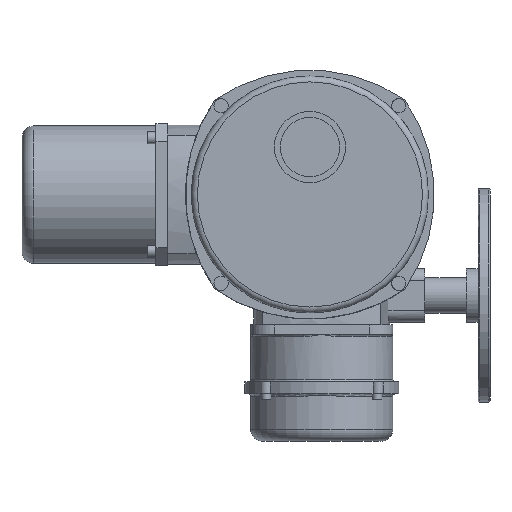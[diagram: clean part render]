
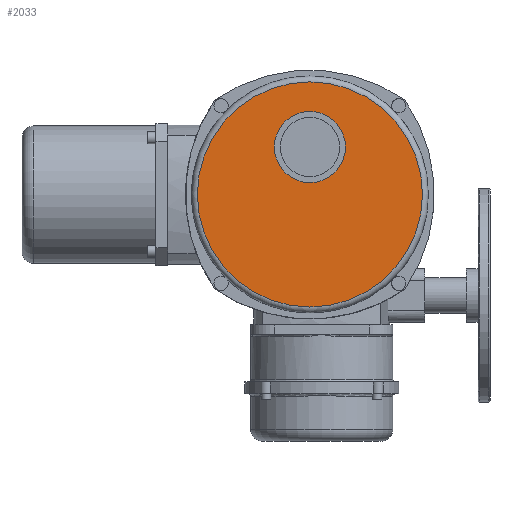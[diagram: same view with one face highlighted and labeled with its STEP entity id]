
A CAD part, top view. The second image highlights one B-rep face of the part: STEP entity #2033.
In plain terms, the highlighted planar face has unit normal (0, 0, 1).
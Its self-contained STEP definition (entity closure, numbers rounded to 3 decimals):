
#2033=ADVANCED_FACE('',(#4670,#4672),#4674,.T.);
#4670=FACE_BOUND('',#4671,.T.);
#4671=EDGE_LOOP('',(#5920));
#4672=FACE_BOUND('',#4673,.T.);
#4673=EDGE_LOOP('',(#5921));
#4674=PLANE('',#4675);
#4675=AXIS2_PLACEMENT_3D('',#4676,#4677,#4678);
#4676=CARTESIAN_POINT('',(0.,0.,70.));
#4677=DIRECTION('',(0.,0.,1.));
#4678=DIRECTION('',(1.,0.,0.));
#5920=ORIENTED_EDGE('',*,*,#6503,.T.);
#5921=ORIENTED_EDGE('',*,*,#6566,.F.);
#6503=EDGE_CURVE('',#7342,#7342,#7343,.T.);
#6566=EDGE_CURVE('',#7444,#7444,#7445,.T.);
#7342=VERTEX_POINT('',#10665);
#7343=CIRCLE('',#10666,95.);
#7444=VERTEX_POINT('',#10926);
#7445=CIRCLE('',#10927,30.);
#10665=CARTESIAN_POINT('',(95.,0.,70.));
#10666=AXIS2_PLACEMENT_3D('',#10667,#10668,#10669);
#10667=CARTESIAN_POINT('',(0.,0.,70.));
#10668=DIRECTION('',(0.,0.,1.));
#10669=DIRECTION('',(1.,0.,0.));
#10926=CARTESIAN_POINT('',(30.,40.,70.));
#10927=AXIS2_PLACEMENT_3D('',#10928,#10929,#10930);
#10928=CARTESIAN_POINT('',(0.,40.,70.));
#10929=DIRECTION('',(0.,0.,1.));
#10930=DIRECTION('',(1.,0.,0.));
